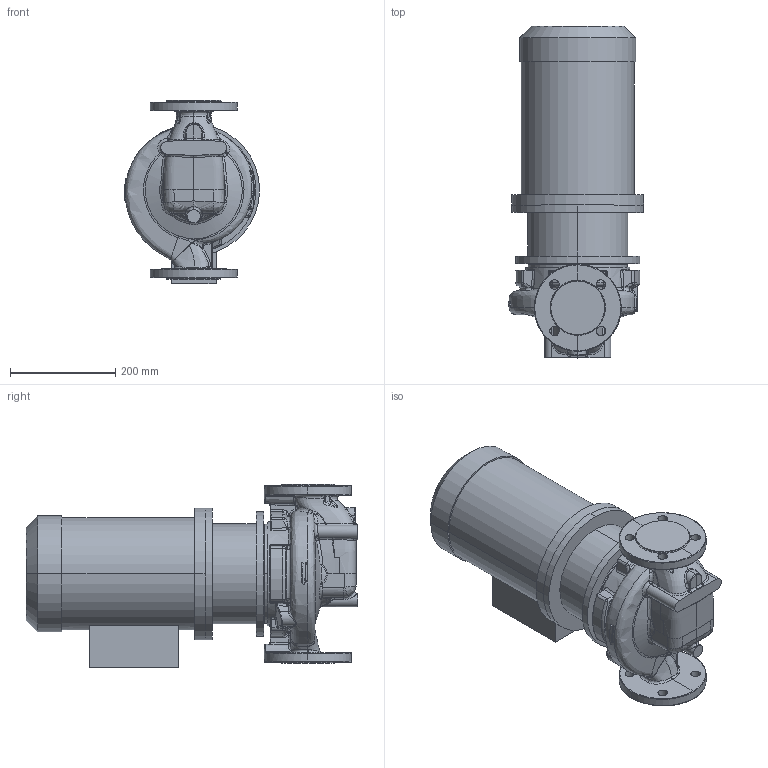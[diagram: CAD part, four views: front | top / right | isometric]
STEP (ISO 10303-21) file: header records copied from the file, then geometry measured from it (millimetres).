
FILE_DESCRIPTION (( 'STEP AP203' ), '1' );
FILE_NAME ('KRL 50-160-2-4.STEP', '2026-04-03T09:34:53', ( '' ), ( '' ), 'SwSTEP 2.0', 'SolidWorks 2016', '' );
FILE_SCHEMA (( 'CONFIG_CONTROL_DESIGN' ));
Length unit declared in the file: millimetre
Products named in the file (1): KRL 50-160-2-4
Bounding box: 256.65 x 630.3 x 348 mm (x, y, z)
Volume: 23844905.9 mm3; surface area: 985028.6 mm2
Topology: 4 solids, 4 shells, 761 faces, 1822 edges, 1057 vertices
Faces by surface type: bspline 413, cylinder 135, plane 96, sphere 57, cone 34, torus 26
Entity records: 79985 total; most frequent: CARTESIAN_POINT 65813, ORIENTED_EDGE 3582, DIRECTION 2100, EDGE_CURVE 1791, VERTEX_POINT 1057, AXIS2_PLACEMENT_3D 933, B_SPLINE_CURVE_WITH_KNOTS 841, EDGE_LOOP 796
